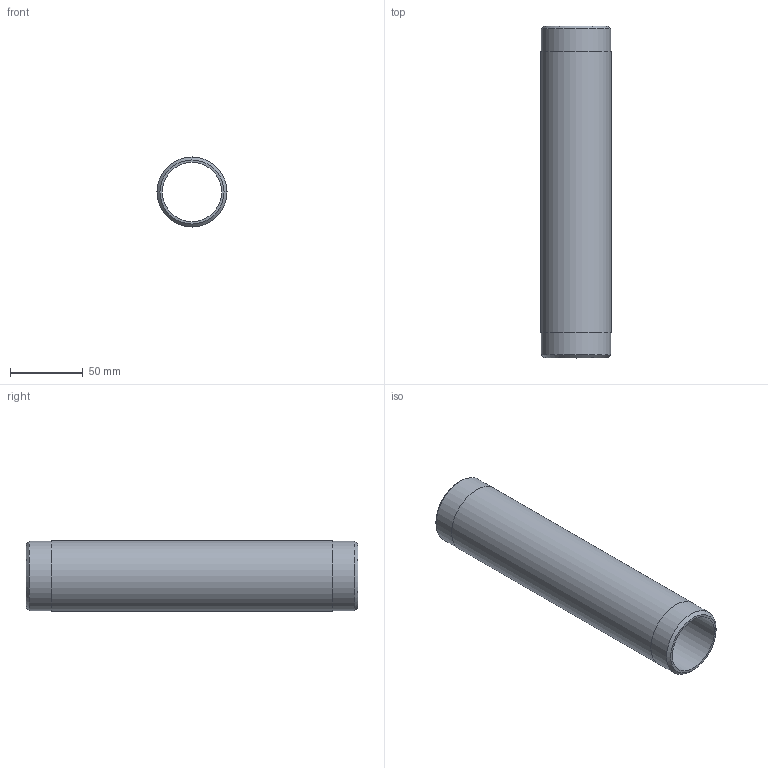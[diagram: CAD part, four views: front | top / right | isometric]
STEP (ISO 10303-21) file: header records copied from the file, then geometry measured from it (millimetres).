
FILE_DESCRIPTION(/* description */ (''),/* implementation_level */ '2;1');
FILE_NAME(/* name */ 'C:/Users/drich/Desktop/BPN1-1_2-9 v1.step',/* time_stamp */ '2020-01-03T14:30:27-06:00',/* author */ (''),/* organization */ (''),/* preprocessor_version */ 'ST-DEVELOPER v18',/* originating_system */ 'Autodesk Translation Framework v8.12.0.6',/* authorisation */ '');
FILE_SCHEMA (('AUTOMOTIVE_DESIGN { 1 0 10303 214 3 1 1 }'));
Length unit declared in the file: inch
Products named in the file (1): BPN1-1_2-9
Bounding box: 48.26 x 228.6 x 48.26 mm (x, y, z)
Volume: 117165.8 mm3; surface area: 64682.3 mm2
Topology: 1 solids, 1 shells, 10 faces, 24 edges, 18 vertices
Faces by surface type: cylinder 4, plane 4, cone 2
Full cylindrical faces by diameter (mm): 40.894 x1, 48.209 x2, 48.26 x1
Entity records: 360 total; most frequent: DIRECTION 64, CARTESIAN_POINT 53, ORIENTED_EDGE 48, AXIS2_PLACEMENT_3D 29, EDGE_CURVE 24, CIRCLE 18, VERTEX_POINT 18, EDGE_LOOP 14
